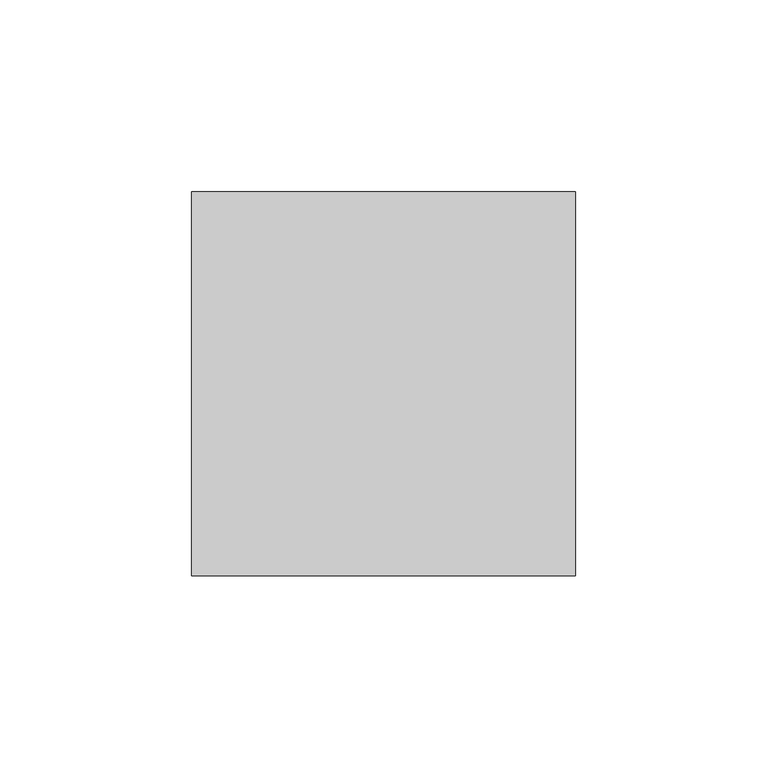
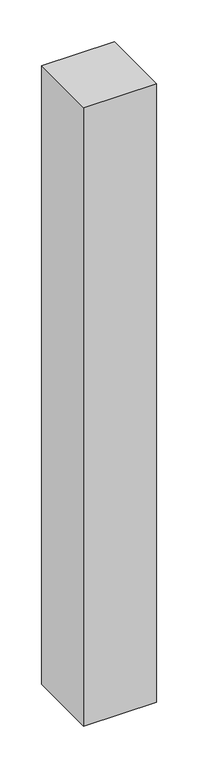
"""IFC4 building model written with IfcOpenShell, lengths in millimetres: proxy geometry, Брус : 100х100."""

from ifc_helpers import new_model, si_unit, origin, origin_with_axes, place, context, project, spatial, polyline, outline, extrude, source, transform, mapped, element, save


def generic_models_ccacc927(model_context):
    return source(origin(), model_context, "Body", "SweptSolid", [
        extrude(outline(polyline([(100.0, 0.0), (0.0, 0.0), (0.0, 100.0), (100.0, 100.0), (100.0, 0.0)])), origin_with_axes(), (0.0, 0.0, 1.0), 900.0),
    ])


if __name__ == "__main__":
    model = new_model("IFC4")
    model_context = context("Model", 3, world=origin())
    ifc_project = project(units=[si_unit("LENGTHUNIT", "METRE", prefix="MILLI")], contexts=[model_context])
    site = spatial("IfcSite", under=ifc_project)
    building = spatial("IfcBuilding", under=site)
    placement = place(None, origin())
    generic_models_shape = generic_models_ccacc927(model_context)
    element("IfcBuildingElementProxy", 1, Name="Брус : 100х100", ObjectType="Брус : 100х100", at=placement, inside=building, context=model_context, shape_type="MappedRepresentation", body=[
        mapped(generic_models_shape, transform((0.0, 0.0, 0.0), x_axis=(1.0, 0.0, 0.0), y_axis=(0.0, 1.0, 0.0), z_axis=(0.0, 0.0, 1.0))),
    ])
    save(model, "model.ifc")
